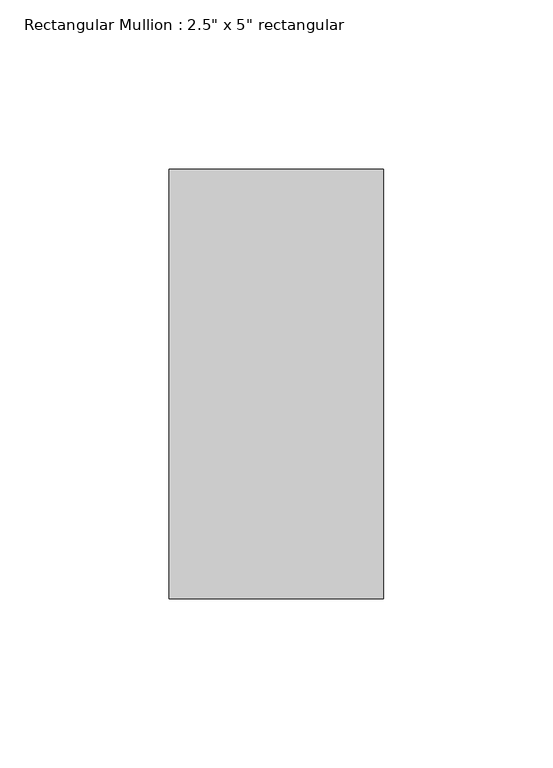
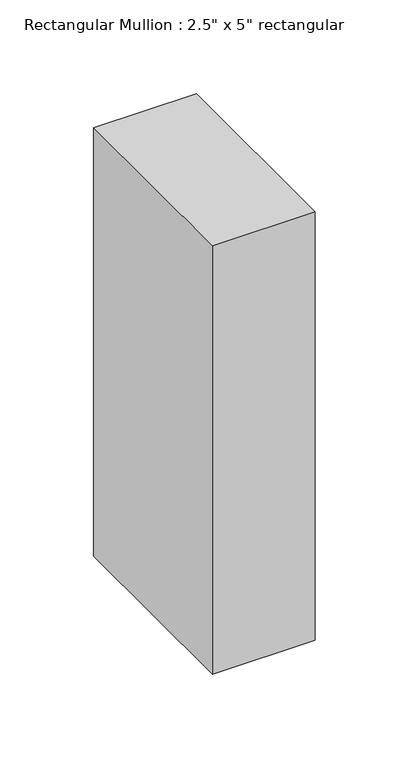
"""IFC4 building model written with IfcOpenShell, lengths in millimetres: member geometry."""

import ifcopenshell
import ifcopenshell.guid

model = None  # the IFC model being written
_history = None  # IfcOwnerHistory: only IFC2X3 demands one
_inside = {}  # id of a spatial element -> (the spatial element, [elements in it])
_under = {}  # id of a project, library or spatial element -> (it, [spatial elements below it])
_declared = {}  # id of a project -> (the project, [libraries it declares])
_typed = {}  # id of a type object -> (the type object, [elements of that type])
_made_of = {}  # id of a material, layer set ... -> (it, [elements and type objects made of it])


def new_model(schema):
    """Start an empty IFC model of exactly this schema.

    Asked for "IFC4X3", IfcOpenShell would pick the latest addendum, in which some entities
    have other attributes; the version numbers below select the first issue.
    IFC2X3 requires an IfcOwnerHistory on every rooted entity: one is made here for all.
    """
    global model, _history
    if schema == "IFC4X3":
        model = ifcopenshell.file(schema_version=(4, 3, 0, 0))
    else:
        model = ifcopenshell.file(schema=schema)
    _inside.clear()
    _under.clear()
    _declared.clear()
    _typed.clear()
    _made_of.clear()
    _history = None
    if model.schema == "IFC2X3":
        org = make("IfcOrganization", Name="unknown")
        user = make(
            "IfcPersonAndOrganization",
            ThePerson=make("IfcPerson", FamilyName="unknown"),
            TheOrganization=org,
        )
        app = make(
            "IfcApplication",
            ApplicationDeveloper=org,
            Version="unknown",
            ApplicationFullName="unknown",
            ApplicationIdentifier="unknown",
        )
        _history = make(
            "IfcOwnerHistory",
            OwningUser=user,
            OwningApplication=app,
            ChangeAction="ADDED",
            CreationDate=0,
        )
    return model


def make(cls, **values):
    """One entity of the class cls with the attributes given. An attribute that is None is left unset."""
    return model.create_entity(
        cls, **{name: value for name, value in values.items() if value is not None}
    )


def rooted(cls, **values):
    """An entity with a GlobalId (a new one), such as an element, a storey or a relation."""
    return make(cls, GlobalId=ifcopenshell.guid.new(), OwnerHistory=_history, **values)


def si_unit(unit_type, name, prefix=None):
    """IfcSIUnit, for example si_unit("LENGTHUNIT", "METRE", prefix="MILLI")."""
    return make("IfcSIUnit", UnitType=unit_type, Prefix=prefix, Name=name)


def assignment(units):
    """IfcUnitAssignment: the units of a project."""
    return None if units is None else make("IfcUnitAssignment", Units=units)


def point(xyz):
    """IfcCartesianPoint."""
    return None if xyz is None else make("IfcCartesianPoint", Coordinates=xyz)


def direction(xyz):
    """IfcDirection."""
    return None if xyz is None else make("IfcDirection", DirectionRatios=xyz)


def frame(location, z_axis=None, x_axis=None):
    """IfcAxis2Placement3D, a coordinate frame: its origin and axes. An axis left out is left unset."""
    return make(
        "IfcAxis2Placement3D",
        Location=point(location),
        Axis=direction(z_axis),
        RefDirection=direction(x_axis),
    )


def origin():
    """The frame at (0, 0, 0) with its axes left unset."""
    return frame((0.0, 0.0, 0.0))


def place(relative_to, where):
    """IfcLocalPlacement: puts the frame where relative to a parent placement (None: the world)."""
    return make(
        "IfcLocalPlacement", PlacementRelTo=relative_to, RelativePlacement=where
    )


def context(
    kind, dimensions, precision=None, world=None, true_north=None, identifier=None
):
    """IfcGeometricRepresentationContext, for example the 3D "Model" context."""
    return make(
        "IfcGeometricRepresentationContext",
        ContextIdentifier=identifier,
        ContextType=kind,
        CoordinateSpaceDimension=dimensions,
        Precision=precision,
        WorldCoordinateSystem=world,
        TrueNorth=true_north,
    )


def project(units=None, contexts=None):
    """IfcProject with its units and contexts."""
    return rooted(
        "IfcProject",
        Name="project",
        RepresentationContexts=contexts,
        UnitsInContext=assignment(units),
    )


def spatial(cls, under=None, at=None, **own):
    """A site, building, storey or space (cls), placed at a placement, below another one or the project."""
    s = rooted(cls, ObjectPlacement=at, **own)
    if under is not None:
        _under.setdefault(under.id(), (under, []))[1].append(s)
    return s


def polyline(points):
    """IfcPolyline through the points."""
    return make("IfcPolyline", Points=[point(p) for p in points])


def outline(outer, holes=None, kind="AREA"):
    """IfcArbitraryClosedProfileDef: a profile drawn as a closed curve; with holes, ...WithVoids."""
    if holes is None:
        return make("IfcArbitraryClosedProfileDef", ProfileType=kind, OuterCurve=outer)
    return make(
        "IfcArbitraryProfileDefWithVoids",
        ProfileType=kind,
        OuterCurve=outer,
        InnerCurves=holes,
    )


def extrude(swept, where, along, depth):
    """IfcExtrudedAreaSolid: the profile swept, set in the frame where, extruded along a direction by depth."""
    return make(
        "IfcExtrudedAreaSolid",
        SweptArea=swept,
        Position=where,
        ExtrudedDirection=direction(along),
        Depth=depth,
    )


def shape(context_of_items, identifier, shape_type, items):
    """IfcShapeRepresentation: the items that make up one representation, for example the "Body"."""
    return make(
        "IfcShapeRepresentation",
        ContextOfItems=context_of_items,
        RepresentationIdentifier=identifier,
        RepresentationType=shape_type,
        Items=items,
    )


def source(mapping_origin, context_of_items, identifier, shape_type, items):
    """IfcRepresentationMap: a shape defined once, which mapped items show again and again."""
    return make(
        "IfcRepresentationMap",
        MappingOrigin=mapping_origin,
        MappedRepresentation=shape(context_of_items, identifier, shape_type, items),
    )


def transform(
    local_origin,
    x_axis=None,
    y_axis=None,
    z_axis=None,
    scale=None,
    scale2=None,
    scale3=None,
    uniform=True,
):
    """IfcCartesianTransformationOperator3D, or its non-uniform kind. x_axis, y_axis, z_axis: its Axis1, 2, 3."""
    if uniform:
        return make(
            "IfcCartesianTransformationOperator3D",
            Axis1=direction(x_axis),
            Axis2=direction(y_axis),
            LocalOrigin=point(local_origin),
            Scale=scale,
            Axis3=direction(z_axis),
        )
    return make(
        "IfcCartesianTransformationOperator3DnonUniform",
        Axis1=direction(x_axis),
        Axis2=direction(y_axis),
        LocalOrigin=point(local_origin),
        Scale=scale,
        Axis3=direction(z_axis),
        Scale2=scale2,
        Scale3=scale3,
    )


def mapped(mapping_source, mapping_target):
    """IfcMappedItem: shows the shape of a source again, moved by a transform."""
    return make(
        "IfcMappedItem", MappingSource=mapping_source, MappingTarget=mapping_target
    )


def made_of(thing, what):
    """Note that an element or type object is made of a material, layer set ...; save() writes the relation."""
    if what is not None:
        _made_of.setdefault(what.id(), (what, []))[1].append(thing)
    return thing


def element(
    cls,
    number,
    at=None,
    inside=None,
    cuts=None,
    type_object=None,
    material=None,
    context=None,
    identifier="Body",
    shape_type=None,
    held_by="IfcProductDefinitionShape",
    body=None,
    shapes=None,
    **own,
):
    """One element of the class cls, such as IfcWall. Its Tag is "e" and its number.

    at: its placement. inside: the storey or other place that contains it. cuts: it is an
    opening in that element (IfcRelVoidsElement). A single representation is given by context,
    identifier, shape_type and body (its items); several are given by shapes. held_by: the class
    of the entity that holds the representations. save() writes the other relations.
    """
    e = rooted(cls, Tag="e%d" % number, ObjectPlacement=at, **own)
    if body is not None:
        shapes = [shape(context, identifier, shape_type, body)]
    if shapes is not None:
        e.Representation = make(held_by, Representations=shapes)
    if inside is not None:
        _inside.setdefault(inside.id(), (inside, []))[1].append(e)
    if cuts is not None:
        rooted(
            "IfcRelVoidsElement", RelatingBuildingElement=cuts, RelatedOpeningElement=e
        )
    if type_object is not None:
        _typed.setdefault(type_object.id(), (type_object, []))[1].append(e)
    return made_of(e, material)


def aggregate(whole, parts):
    """IfcRelAggregates: a whole, such as a stair, and the parts it consists of."""
    return rooted("IfcRelAggregates", RelatingObject=whole, RelatedObjects=parts)


def save(model, path):
    """Write the relations noted so far, then the file.

    IfcRelAggregates (storeys below a building ...), IfcRelContainedInSpatialStructure (elements
    in a storey), IfcRelDefinesByType, IfcRelAssociatesMaterial and IfcRelDeclares: one each for
    every whole, place, type object, material and project.
    """
    for whole, parts in _under.values():
        aggregate(whole, parts)
    for where, things in _inside.values():
        rooted(
            "IfcRelContainedInSpatialStructure",
            RelatedElements=things,
            RelatingStructure=where,
        )
    for kind, things in _typed.values():
        rooted("IfcRelDefinesByType", RelatedObjects=things, RelatingType=kind)
    for what, things in _made_of.values():
        rooted("IfcRelAssociatesMaterial", RelatedObjects=things, RelatingMaterial=what)
    for by, libraries in _declared.values():
        rooted("IfcRelDeclares", RelatingContext=by, RelatedDefinitions=libraries)
    model.write(path)


def member_d3323a85(model_context):
    return source(origin(), model_context, "Body", "SweptSolid", [
        extrude(outline(polyline([(0.0, 63.5), (0.0, -63.5), (-63.5, -63.5), (-63.5, 63.5), (0.0, 63.5)])), frame((0.0, 0.0, -279.4), z_axis=(0.0, 0.0, 1.0), x_axis=(1.0, 0.0, 0.0)), (0.0, 0.0, 1.0), 279.4),
    ])


if __name__ == "__main__":
    model = new_model("IFC4")
    model_context = context("Model", 3, world=origin())
    ifc_project = project(units=[si_unit("LENGTHUNIT", "METRE", prefix="MILLI")], contexts=[model_context])
    site = spatial("IfcSite", under=ifc_project)
    building = spatial("IfcBuilding", under=site)
    placement = place(None, origin())
    member_shape = member_d3323a85(model_context)
    element("IfcMember", 1, ObjectType="Rectangular Mullion : 2.5\" x 5\" rectangular", at=placement, inside=building, context=model_context, shape_type="MappedRepresentation", body=[
        mapped(member_shape, transform((0.0, 0.0, 0.0), x_axis=(1.0, 0.0, 0.0), y_axis=(0.0, 1.0, 0.0), z_axis=(0.0, 0.0, 1.0))),
    ])
    save(model, "model.ifc")
